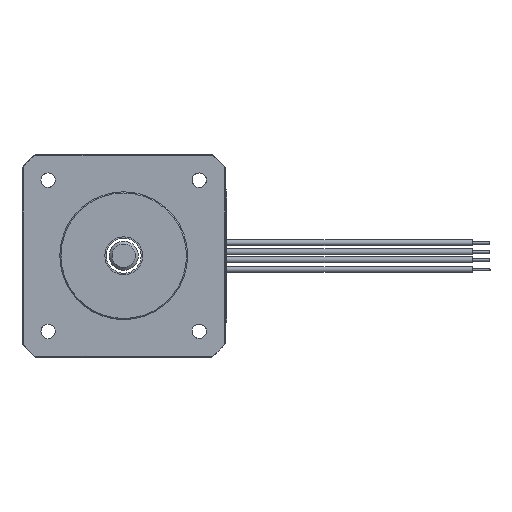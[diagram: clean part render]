
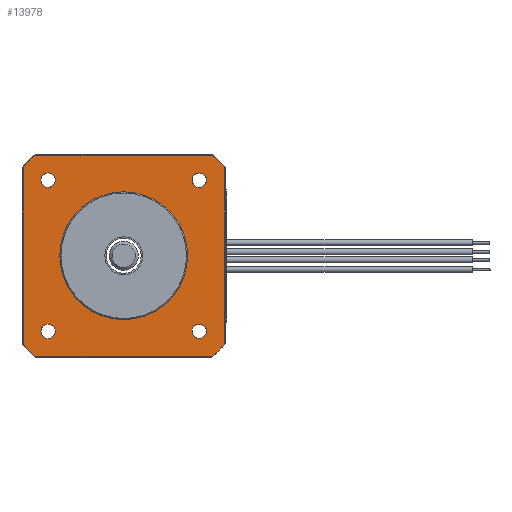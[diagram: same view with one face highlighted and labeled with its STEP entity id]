
A CAD part, left-side view. The second image highlights one B-rep face of the part: STEP entity #13978.
In plain terms, the highlighted planar face has unit normal (-1, 0, 0).
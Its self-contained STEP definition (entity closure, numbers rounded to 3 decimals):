
#12207=CARTESIAN_POINT('',(2.,-17.3,15.308));
#12208=VERTEX_POINT('',#12207);
#12209=CARTESIAN_POINT('',(2.,-17.3,-15.308));
#12210=VERTEX_POINT('',#12209);
#12211=CARTESIAN_POINT('',(2.,-17.3,15.308));
#12212=DIRECTION('',(0.,0.,-1.));
#12213=VECTOR('',#12212,30.615);
#12214=LINE('',#12211,#12213);
#12215=EDGE_CURVE('',#12208,#12210,#12214,.T.);
#12238=CARTESIAN_POINT('',(2.,-15.308,-17.3));
#12239=VERTEX_POINT('',#12238);
#12250=CARTESIAN_POINT('',(2.,0.,0.));
#12251=DIRECTION('',(0.,-0.749,-0.663));
#12252=DIRECTION('',(1.,0.,0.));
#12253=AXIS2_PLACEMENT_3D('',#12250,#12252,#12251);
#12254=CIRCLE('',#12253,23.1);
#12255=EDGE_CURVE('',#12210,#12239,#12254,.T.);
#12436=CARTESIAN_POINT('',(2.,-15.308,17.3));
#12437=VERTEX_POINT('',#12436);
#12444=CARTESIAN_POINT('',(2.,0.,0.));
#12445=DIRECTION('',(0.,-0.663,0.749));
#12446=DIRECTION('',(1.,0.,0.));
#12447=AXIS2_PLACEMENT_3D('',#12444,#12446,#12445);
#12448=CIRCLE('',#12447,23.1);
#12449=EDGE_CURVE('',#12437,#12208,#12448,.T.);
#12459=CARTESIAN_POINT('',(2.,-11.75,-13.));
#12460=VERTEX_POINT('',#12459);
#12467=CARTESIAN_POINT('',(2.,-14.25,-13.));
#12468=VERTEX_POINT('',#12467);
#12469=CARTESIAN_POINT('',(2.,-13.,-13.));
#12470=DIRECTION('',(0.,1.,0.));
#12471=DIRECTION('',(-1.,-0.,0.));
#12472=AXIS2_PLACEMENT_3D('',#12469,#12471,#12470);
#12473=CIRCLE('',#12472,1.25);
#12474=EDGE_CURVE('',#12460,#12468,#12473,.T.);
#12496=CARTESIAN_POINT('',(2.,-13.,-13.));
#12497=DIRECTION('',(0.,-1.,0.));
#12498=DIRECTION('',(-1.,0.,0.));
#12499=AXIS2_PLACEMENT_3D('',#12496,#12498,#12497);
#12500=CIRCLE('',#12499,1.25);
#12501=EDGE_CURVE('',#12468,#12460,#12500,.T.);
#12513=CARTESIAN_POINT('',(2.,15.308,-17.3));
#12514=VERTEX_POINT('',#12513);
#12515=CARTESIAN_POINT('',(2.,-15.308,-17.3));
#12516=DIRECTION('',(0.,1.,0.));
#12517=VECTOR('',#12516,30.615);
#12518=LINE('',#12515,#12517);
#12519=EDGE_CURVE('',#12239,#12514,#12518,.T.);
#12537=CARTESIAN_POINT('',(2.,17.3,-15.308));
#12538=VERTEX_POINT('',#12537);
#12556=CARTESIAN_POINT('',(2.,0.,0.));
#12557=DIRECTION('',(0.,0.663,-0.749));
#12558=DIRECTION('',(1.,0.,0.));
#12559=AXIS2_PLACEMENT_3D('',#12556,#12558,#12557);
#12560=CIRCLE('',#12559,23.1);
#12561=EDGE_CURVE('',#12514,#12538,#12560,.T.);
#12634=CARTESIAN_POINT('',(2.,13.,-11.75));
#12635=VERTEX_POINT('',#12634);
#12642=CARTESIAN_POINT('',(2.,13.,-14.25));
#12643=VERTEX_POINT('',#12642);
#12644=CARTESIAN_POINT('',(2.,13.,-13.));
#12645=DIRECTION('',(0.,0.,1.));
#12646=DIRECTION('',(-1.,0.,-0.));
#12647=AXIS2_PLACEMENT_3D('',#12644,#12646,#12645);
#12648=CIRCLE('',#12647,1.25);
#12649=EDGE_CURVE('',#12635,#12643,#12648,.T.);
#12671=CARTESIAN_POINT('',(2.,13.,-13.));
#12672=DIRECTION('',(0.,0.,-1.));
#12673=DIRECTION('',(-1.,0.,0.));
#12674=AXIS2_PLACEMENT_3D('',#12671,#12673,#12672);
#12675=CIRCLE('',#12674,1.25);
#12676=EDGE_CURVE('',#12643,#12635,#12675,.T.);
#12708=CARTESIAN_POINT('',(2.,11.75,13.));
#12709=VERTEX_POINT('',#12708);
#12716=CARTESIAN_POINT('',(2.,14.25,13.));
#12717=VERTEX_POINT('',#12716);
#12718=CARTESIAN_POINT('',(2.,13.,13.));
#12719=DIRECTION('',(0.,-1.,0.));
#12720=DIRECTION('',(-1.,0.,0.));
#12721=AXIS2_PLACEMENT_3D('',#12718,#12720,#12719);
#12722=CIRCLE('',#12721,1.25);
#12723=EDGE_CURVE('',#12709,#12717,#12722,.T.);
#12745=CARTESIAN_POINT('',(2.,13.,13.));
#12746=DIRECTION('',(0.,1.,0.));
#12747=DIRECTION('',(-1.,-0.,0.));
#12748=AXIS2_PLACEMENT_3D('',#12745,#12747,#12746);
#12749=CIRCLE('',#12748,1.25);
#12750=EDGE_CURVE('',#12717,#12709,#12749,.T.);
#12864=CARTESIAN_POINT('',(2.,-13.,11.75));
#12865=VERTEX_POINT('',#12864);
#12872=CARTESIAN_POINT('',(2.,-13.,14.25));
#12873=VERTEX_POINT('',#12872);
#12874=CARTESIAN_POINT('',(2.,-13.,13.));
#12875=DIRECTION('',(0.,0.,-1.));
#12876=DIRECTION('',(-1.,0.,0.));
#12877=AXIS2_PLACEMENT_3D('',#12874,#12876,#12875);
#12878=CIRCLE('',#12877,1.25);
#12879=EDGE_CURVE('',#12865,#12873,#12878,.T.);
#12901=CARTESIAN_POINT('',(2.,-13.,13.));
#12902=DIRECTION('',(0.,0.,1.));
#12903=DIRECTION('',(-1.,0.,-0.));
#12904=AXIS2_PLACEMENT_3D('',#12901,#12903,#12902);
#12905=CIRCLE('',#12904,1.25);
#12906=EDGE_CURVE('',#12873,#12865,#12905,.T.);
#13907=CARTESIAN_POINT('',(2.,0.,0.));
#13908=DIRECTION('',(0.,0.,-1.));
#13909=DIRECTION('',(-1.,-0.,-0.));
#13910=AXIS2_PLACEMENT_3D('',#13907,#13909,#13908);
#13911=PLANE('',#13910);
#13912=CARTESIAN_POINT('',(2.,17.3,15.308));
#13913=VERTEX_POINT('',#13912);
#13914=CARTESIAN_POINT('',(2.,17.3,15.308));
#13915=DIRECTION('',(0.,0.,-1.));
#13916=VECTOR('',#13915,30.615);
#13917=LINE('',#13914,#13916);
#13918=EDGE_CURVE('',#13913,#12538,#13917,.T.);
#13919=ORIENTED_EDGE('E381',*,*,#13918,.T.);
#13920=ORIENTED_EDGE('E381',*,*,#12561,.F.);
#13921=ORIENTED_EDGE('E381',*,*,#12519,.F.);
#13922=ORIENTED_EDGE('E381',*,*,#12255,.F.);
#13923=ORIENTED_EDGE('E381',*,*,#12215,.F.);
#13924=ORIENTED_EDGE('E381',*,*,#12449,.F.);
#13925=CARTESIAN_POINT('',(2.,15.308,17.3));
#13926=VERTEX_POINT('',#13925);
#13927=CARTESIAN_POINT('',(2.,-15.308,17.3));
#13928=DIRECTION('',(0.,1.,0.));
#13929=VECTOR('',#13928,30.615);
#13930=LINE('',#13927,#13929);
#13931=EDGE_CURVE('',#12437,#13926,#13930,.T.);
#13932=ORIENTED_EDGE('E382',*,*,#13931,.T.);
#13933=CARTESIAN_POINT('',(2.,0.,0.));
#13934=DIRECTION('',(0.,0.663,0.749));
#13935=DIRECTION('',(-1.,0.,0.));
#13936=AXIS2_PLACEMENT_3D('',#13933,#13935,#13934);
#13937=CIRCLE('',#13936,23.1);
#13938=EDGE_CURVE('',#13926,#13913,#13937,.T.);
#13939=ORIENTED_EDGE('E383',*,*,#13938,.T.);
#13940=EDGE_LOOP('',(#13919,#13920,#13921,#13922,#13923,#13924,#13932,#13939));
#13941=FACE_OUTER_BOUND('',#13940,.T.);
#13942=ORIENTED_EDGE('',*,*,#12906,.F.);
#13943=ORIENTED_EDGE('',*,*,#12879,.F.);
#13944=EDGE_LOOP('',(#13942,#13943));
#13945=FACE_BOUND('',#13944,.T.);
#13946=ORIENTED_EDGE('',*,*,#12750,.F.);
#13947=ORIENTED_EDGE('',*,*,#12723,.F.);
#13948=EDGE_LOOP('',(#13946,#13947));
#13949=FACE_BOUND('',#13948,.T.);
#13950=ORIENTED_EDGE('',*,*,#12676,.F.);
#13951=ORIENTED_EDGE('',*,*,#12649,.F.);
#13952=EDGE_LOOP('',(#13950,#13951));
#13953=FACE_BOUND('',#13952,.T.);
#13954=ORIENTED_EDGE('',*,*,#12501,.F.);
#13955=ORIENTED_EDGE('',*,*,#12474,.F.);
#13956=EDGE_LOOP('',(#13954,#13955));
#13957=FACE_BOUND('',#13956,.T.);
#13958=CARTESIAN_POINT('',(2.,11.,0.));
#13959=VERTEX_POINT('',#13958);
#13960=CARTESIAN_POINT('',(2.,-11.,0.));
#13961=VERTEX_POINT('',#13960);
#13962=CARTESIAN_POINT('',(2.,0.,0.));
#13963=DIRECTION('',(0.,1.,0.));
#13964=DIRECTION('',(1.,0.,0.));
#13965=AXIS2_PLACEMENT_3D('',#13962,#13964,#13963);
#13966=CIRCLE('',#13965,11.);
#13967=EDGE_CURVE('',#13959,#13961,#13966,.T.);
#13968=ORIENTED_EDGE('E384',*,*,#13967,.T.);
#13969=CARTESIAN_POINT('',(2.,0.,0.));
#13970=DIRECTION('',(0.,-1.,0.));
#13971=DIRECTION('',(1.,-0.,0.));
#13972=AXIS2_PLACEMENT_3D('',#13969,#13971,#13970);
#13973=CIRCLE('',#13972,11.);
#13974=EDGE_CURVE('',#13961,#13959,#13973,.T.);
#13975=ORIENTED_EDGE('E385',*,*,#13974,.T.);
#13976=EDGE_LOOP('',(#13968,#13975));
#13977=FACE_BOUND('',#13976,.T.);
#13978=ADVANCED_FACE('F107',(#13941,#13945,#13949,#13953,#13957,#13977),#13911,.T.);
